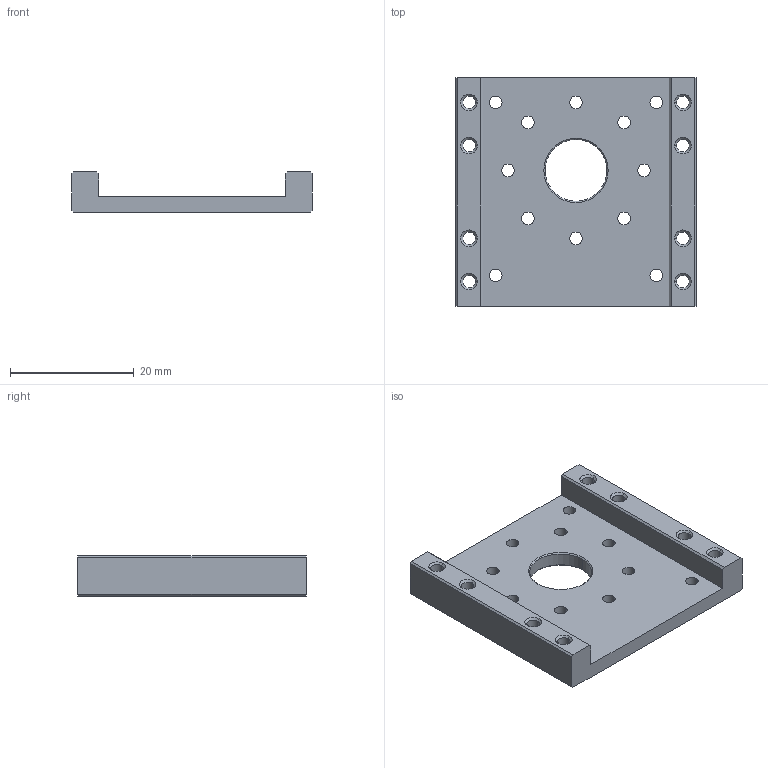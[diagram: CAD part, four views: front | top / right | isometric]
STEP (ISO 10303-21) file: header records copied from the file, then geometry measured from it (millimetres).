
FILE_DESCRIPTION((''),'2;1');
FILE_NAME('PR06_01A_ADAPTOR_B','2006-11-29T',('bono'),(''),'PRO/ENGINEER BY PARAMETRIC TECHNOLOGY CORPORATION, 2006170','PRO/ENGINEER BY PARAMETRIC TECHNOLOGY CORPORATION, 2006170','');
FILE_SCHEMA(('CONFIG_CONTROL_DESIGN'));
Length unit declared in the file: millimetre
Products named in the file (1): PR06_01A_ADAPTOR_B
Bounding box: 39 x 37 x 6.5 mm (x, y, z)
Volume: 4422.3 mm3; surface area: 4170.3 mm2
Topology: 1 solids, 1 shells, 118 faces, 288 edges, 172 vertices
Faces by surface type: cone 60, cylinder 42, plane 16
Entity records: 3578 total; most frequent: DIRECTION 668, CARTESIAN_POINT 578, ORIENTED_EDGE 576, EDGE_CURVE 288, AXIS2_PLACEMENT_3D 262, VERTEX_POINT 172, EDGE_LOOP 160, VECTOR 144
